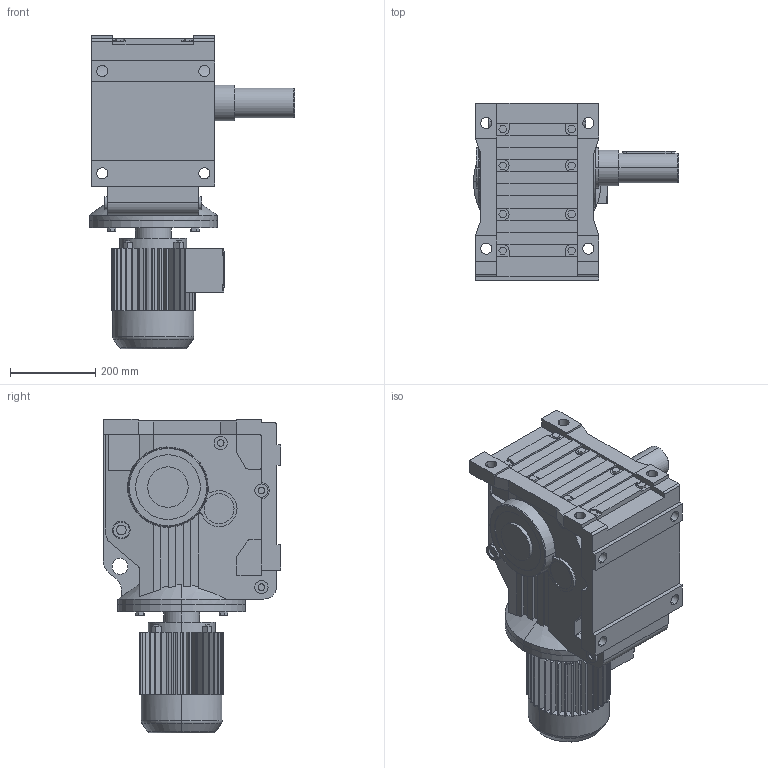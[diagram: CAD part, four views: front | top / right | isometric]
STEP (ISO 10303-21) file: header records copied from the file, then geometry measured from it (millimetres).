
FILE_DESCRIPTION(('Open CASCADE Model'),'2;1');
FILE_NAME('Open CASCADE Shape Model','2021-05-31T14:36:58',('Author'),( 'Open CASCADE'),'Open CASCADE STEP processor 6.3','Open CASCADE 6.3' ,'Unknown');
FILE_SCHEMA(('AUTOMOTIVE_DESIGN_CC2 { 1 2 10303 214 -1 1 5 4 }'));
Length unit declared in the file: millimetre
Products named in the file (4): 1_K97DV100M-A; K37‵157_97.step; 萇儂_300-DV100M-301-386-197-166.step; す瑩妗陑粣K_97.step
Assembly tree (3 placements, depth 2):
  1_K97DV100M-A
    K37‵157_97.step
    萇儂_300-DV100M-301-386-197-166.step
    す瑩妗陑粣K_97.step
Bounding box: 482 x 417 x 738 mm (x, y, z)
Volume: 46564655.5 mm3; surface area: 1731642.6 mm2
Topology: 3 solids, 3 shells, 836 faces, 2204 edges, 1431 vertices
Faces by surface type: plane 582, cylinder 231, cone 15, torus 8
Entity records: 57813 total; most frequent: CARTESIAN_POINT 15932, DIRECTION 7217, ORIENTED_EDGE 4404, PCURVE 4404, DEFINITIONAL_REPRESENTATION 4404, LINE 3932, VECTOR 3932, EDGE_CURVE 2202
